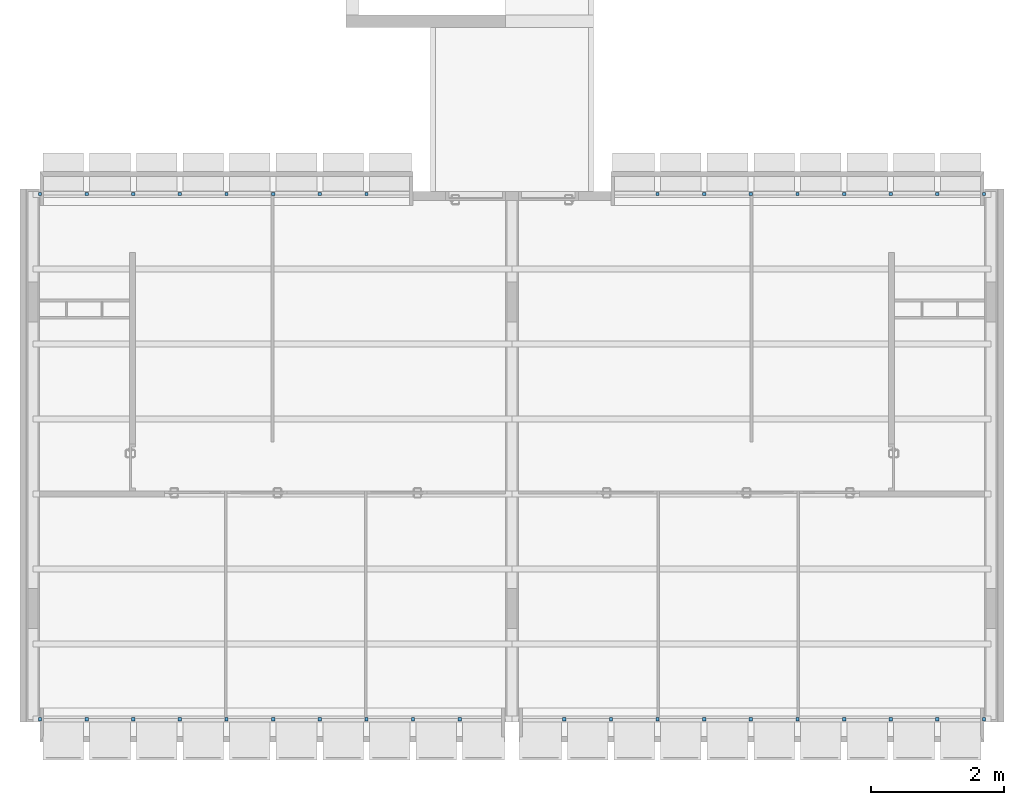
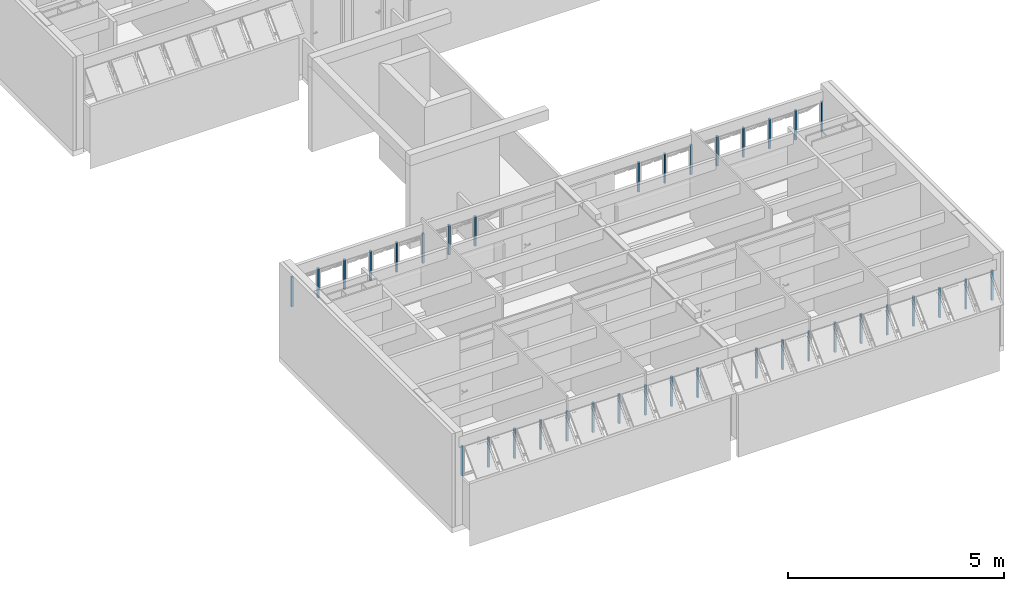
# One storey, part 2 of 40: 36 members, 4 elements without a shape of their own.
"""IFC4 building model written with IfcOpenShell, lengths in millimetres."""

import ifcopenshell
import ifcopenshell.guid

model = None  # the IFC model being written
_history = None  # IfcOwnerHistory: only IFC2X3 demands one
_inside = {}  # id of a spatial element -> (the spatial element, [elements in it])
_under = {}  # id of a project, library or spatial element -> (it, [spatial elements below it])
_declared = {}  # id of a project -> (the project, [libraries it declares])
_typed = {}  # id of a type object -> (the type object, [elements of that type])
_made_of = {}  # id of a material, layer set ... -> (it, [elements and type objects made of it])


def new_model(schema):
    """Start an empty IFC model of exactly this schema.

    Asked for "IFC4X3", IfcOpenShell would pick the latest addendum, in which some entities
    have other attributes; the version numbers below select the first issue.
    IFC2X3 requires an IfcOwnerHistory on every rooted entity: one is made here for all.
    """
    global model, _history
    if schema == "IFC4X3":
        model = ifcopenshell.file(schema_version=(4, 3, 0, 0))
    else:
        model = ifcopenshell.file(schema=schema)
    _inside.clear()
    _under.clear()
    _declared.clear()
    _typed.clear()
    _made_of.clear()
    _history = None
    if model.schema == "IFC2X3":
        org = make("IfcOrganization", Name="unknown")
        user = make(
            "IfcPersonAndOrganization",
            ThePerson=make("IfcPerson", FamilyName="unknown"),
            TheOrganization=org,
        )
        app = make(
            "IfcApplication",
            ApplicationDeveloper=org,
            Version="unknown",
            ApplicationFullName="unknown",
            ApplicationIdentifier="unknown",
        )
        _history = make(
            "IfcOwnerHistory",
            OwningUser=user,
            OwningApplication=app,
            ChangeAction="ADDED",
            CreationDate=0,
        )
    return model


def make(cls, **values):
    """One entity of the class cls with the attributes given. An attribute that is None is left unset."""
    return model.create_entity(
        cls, **{name: value for name, value in values.items() if value is not None}
    )


def entity(cls, *values):
    """Any entity or typed value of the class cls, its attributes in the order of the schema. None: left unset."""
    e = model.create_entity(cls)
    for i, value in enumerate(values):
        if value is not None:
            e[i] = value
    return e


def rooted(cls, **values):
    """An entity with a GlobalId (a new one), such as an element, a storey or a relation."""
    return make(cls, GlobalId=ifcopenshell.guid.new(), OwnerHistory=_history, **values)


def si_unit(unit_type, name, prefix=None):
    """IfcSIUnit, for example si_unit("LENGTHUNIT", "METRE", prefix="MILLI")."""
    return make("IfcSIUnit", UnitType=unit_type, Prefix=prefix, Name=name)


def converted_unit(unit_type, name, factor, base, dimensions=None, offset=None):
    """IfcConversionBasedUnit, such as the inch: factor (a typed value) times the base unit."""
    return make(
        "IfcConversionBasedUnit"
        if offset is None
        else "IfcConversionBasedUnitWithOffset",
        ConversionOffset=offset,
        Dimensions=None
        if dimensions is None
        else entity("IfcDimensionalExponents", *dimensions),
        UnitType=unit_type,
        Name=name,
        ConversionFactor=make(
            "IfcMeasureWithUnit", ValueComponent=factor, UnitComponent=base
        ),
    )


def derived_unit(unit_type, elements):
    """IfcDerivedUnit: a product of units, each with its exponent."""
    return make(
        "IfcDerivedUnit",
        Elements=[
            make("IfcDerivedUnitElement", Unit=unit, Exponent=power)
            for unit, power in elements
        ],
        UnitType=unit_type,
    )


def assignment(units):
    """IfcUnitAssignment: the units of a project."""
    return None if units is None else make("IfcUnitAssignment", Units=units)


def point(xyz):
    """IfcCartesianPoint."""
    return None if xyz is None else make("IfcCartesianPoint", Coordinates=xyz)


def direction(xyz):
    """IfcDirection."""
    return None if xyz is None else make("IfcDirection", DirectionRatios=xyz)


def frame(location, z_axis=None, x_axis=None):
    """IfcAxis2Placement3D, a coordinate frame: its origin and axes. An axis left out is left unset."""
    return make(
        "IfcAxis2Placement3D",
        Location=point(location),
        Axis=direction(z_axis),
        RefDirection=direction(x_axis),
    )


def origin_with_axes():
    """The frame at (0, 0, 0) with the z axis (0, 0, 1) and the x axis (1, 0, 0) written out."""
    return frame((0.0, 0.0, 0.0), z_axis=(0.0, 0.0, 1.0), x_axis=(1.0, 0.0, 0.0))


def place(relative_to, where):
    """IfcLocalPlacement: puts the frame where relative to a parent placement (None: the world)."""
    return make(
        "IfcLocalPlacement", PlacementRelTo=relative_to, RelativePlacement=where
    )


def context(
    kind, dimensions, precision=None, world=None, true_north=None, identifier=None
):
    """IfcGeometricRepresentationContext, for example the 3D "Model" context."""
    return make(
        "IfcGeometricRepresentationContext",
        ContextIdentifier=identifier,
        ContextType=kind,
        CoordinateSpaceDimension=dimensions,
        Precision=precision,
        WorldCoordinateSystem=world,
        TrueNorth=true_north,
    )


def subcontext(parent, identifier, kind, view, scale=None):
    """IfcGeometricRepresentationSubContext, for example "Body" below "Model"."""
    return make(
        "IfcGeometricRepresentationSubContext",
        ContextIdentifier=identifier,
        ContextType=kind,
        ParentContext=parent,
        TargetScale=scale,
        TargetView=view,
    )


def project(units=None, contexts=None):
    """IfcProject with its units and contexts."""
    return rooted(
        "IfcProject",
        Name="project",
        RepresentationContexts=contexts,
        UnitsInContext=assignment(units),
    )


def spatial(cls, under=None, at=None, **own):
    """A site, building, storey or space (cls), placed at a placement, below another one or the project."""
    s = rooted(cls, ObjectPlacement=at, **own)
    if under is not None:
        _under.setdefault(under.id(), (under, []))[1].append(s)
    return s


def point_list(points):
    """IfcCartesianPointList2D or 3D."""
    cls = (
        "IfcCartesianPointList2D" if len(points[0]) == 2 else "IfcCartesianPointList3D"
    )
    return make(cls, CoordList=points)


def line(*indices):
    """IfcLineIndex: a straight run through numbered points of an indexed curve."""
    return model.create_entity("IfcLineIndex", indices)


def indexed_curve(points, segments=None, self_intersect=None):
    """IfcIndexedPolyCurve: lines and arcs through numbered points (the first is 1)."""
    return make(
        "IfcIndexedPolyCurve",
        Points=point_list(points),
        Segments=segments,
        SelfIntersect=self_intersect,
    )


def outline(outer, holes=None, kind="AREA"):
    """IfcArbitraryClosedProfileDef: a profile drawn as a closed curve; with holes, ...WithVoids."""
    if holes is None:
        return make("IfcArbitraryClosedProfileDef", ProfileType=kind, OuterCurve=outer)
    return make(
        "IfcArbitraryProfileDefWithVoids",
        ProfileType=kind,
        OuterCurve=outer,
        InnerCurves=holes,
    )


def extrude(swept, where, along, depth):
    """IfcExtrudedAreaSolid: the profile swept, set in the frame where, extruded along a direction by depth."""
    return make(
        "IfcExtrudedAreaSolid",
        SweptArea=swept,
        Position=where,
        ExtrudedDirection=direction(along),
        Depth=depth,
    )


def shape(context_of_items, identifier, shape_type, items):
    """IfcShapeRepresentation: the items that make up one representation, for example the "Body"."""
    return make(
        "IfcShapeRepresentation",
        ContextOfItems=context_of_items,
        RepresentationIdentifier=identifier,
        RepresentationType=shape_type,
        Items=items,
    )


def material(Name=None, Category=None):
    """IfcMaterial."""
    return make("IfcMaterial", Name=Name, Category=Category)


def made_of(thing, what):
    """Note that an element or type object is made of a material, layer set ...; save() writes the relation."""
    if what is not None:
        _made_of.setdefault(what.id(), (what, []))[1].append(thing)
    return thing


def type_object(cls, material=None, **own):
    """A type object (cls), such as IfcWallType, which elements share."""
    return made_of(rooted(cls, **own), material)


def element(
    cls,
    number,
    at=None,
    inside=None,
    cuts=None,
    type_object=None,
    material=None,
    context=None,
    identifier="Body",
    shape_type=None,
    held_by="IfcProductDefinitionShape",
    body=None,
    shapes=None,
    **own,
):
    """One element of the class cls, such as IfcWall. Its Tag is "e" and its number.

    at: its placement. inside: the storey or other place that contains it. cuts: it is an
    opening in that element (IfcRelVoidsElement). A single representation is given by context,
    identifier, shape_type and body (its items); several are given by shapes. held_by: the class
    of the entity that holds the representations. save() writes the other relations.
    """
    e = rooted(cls, Tag="e%d" % number, ObjectPlacement=at, **own)
    if body is not None:
        shapes = [shape(context, identifier, shape_type, body)]
    if shapes is not None:
        e.Representation = make(held_by, Representations=shapes)
    if inside is not None:
        _inside.setdefault(inside.id(), (inside, []))[1].append(e)
    if cuts is not None:
        rooted(
            "IfcRelVoidsElement", RelatingBuildingElement=cuts, RelatedOpeningElement=e
        )
    if type_object is not None:
        _typed.setdefault(type_object.id(), (type_object, []))[1].append(e)
    return made_of(e, material)


def aggregate(whole, parts):
    """IfcRelAggregates: a whole, such as a stair, and the parts it consists of."""
    return rooted("IfcRelAggregates", RelatingObject=whole, RelatedObjects=parts)


def save(model, path):
    """Write the relations noted so far, then the file.

    IfcRelAggregates (storeys below a building ...), IfcRelContainedInSpatialStructure (elements
    in a storey), IfcRelDefinesByType, IfcRelAssociatesMaterial and IfcRelDeclares: one each for
    every whole, place, type object, material and project.
    """
    for whole, parts in _under.values():
        aggregate(whole, parts)
    for where, things in _inside.values():
        rooted(
            "IfcRelContainedInSpatialStructure",
            RelatedElements=things,
            RelatingStructure=where,
        )
    for kind, things in _typed.values():
        rooted("IfcRelDefinesByType", RelatedObjects=things, RelatingType=kind)
    for what, things in _made_of.values():
        rooted("IfcRelAssociatesMaterial", RelatedObjects=things, RelatingMaterial=what)
    for by, libraries in _declared.values():
        rooted("IfcRelDeclares", RelatingContext=by, RelatedDefinitions=libraries)
    model.write(path)


model = new_model("IFC4")

# Units and contexts
model_context = context("Model", 3, precision=0.01, world=origin_with_axes(), true_north=direction((0.0, 1.0)))
body_context = subcontext(model_context, "Body", "Model", "MODEL_VIEW")
ifc_project = project(units=[si_unit("LENGTHUNIT", "METRE", prefix="MILLI"), si_unit("AREAUNIT", "SQUARE_METRE"), si_unit("VOLUMEUNIT", "CUBIC_METRE"), converted_unit("PLANEANGLEUNIT", "DEGREE", entity("IfcPlaneAngleMeasure", 0.0174532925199), si_unit("PLANEANGLEUNIT", "RADIAN"), dimensions=[0, 0, 0, 0, 0, 0, 0]), converted_unit("TIMEUNIT", "Year", entity("IfcTimeMeasure", 31556926.0), si_unit("TIMEUNIT", "SECOND"), dimensions=[0, 0, 1, 0, 0, 0, 0]), si_unit("MASSUNIT", "GRAM", prefix="KILO"), si_unit("THERMODYNAMICTEMPERATUREUNIT", "DEGREE_CELSIUS"), si_unit("LUMINOUSINTENSITYUNIT", "LUMEN"), si_unit("ENERGYUNIT", "JOULE", prefix="MEGA"), derived_unit("THERMALCONDUCTANCEUNIT", [(si_unit("POWERUNIT", "WATT"), 1), (si_unit("LENGTHUNIT", "METRE"), -1), (si_unit("THERMODYNAMICTEMPERATUREUNIT", "KELVIN"), -1)]), derived_unit("SPECIFICHEATCAPACITYUNIT", [(si_unit("ENERGYUNIT", "JOULE"), 1), (si_unit("MASSUNIT", "GRAM", prefix="KILO"), -1), (si_unit("THERMODYNAMICTEMPERATUREUNIT", "KELVIN"), -1)]), derived_unit("MASSDENSITYUNIT", [(si_unit("MASSUNIT", "GRAM", prefix="KILO"), 1), (si_unit("VOLUMEUNIT", "CUBIC_METRE"), -1)])], contexts=[model_context])

# Site, building, storey
site_placement = place(None, origin_with_axes())
site = spatial("IfcSite", under=ifc_project, at=site_placement, Name="Local", CompositionType="ELEMENT")
building_placement = place(site_placement, origin_with_axes())
building = spatial("IfcBuilding", under=site, at=building_placement, Name="Construção", CompositionType="ELEMENT")
storey_placement = place(building_placement, frame((0.0, 0.0, 5300.0), z_axis=(0.0, 0.0, 1.0), x_axis=(1.0, 0.0, 0.0)))
storey = spatial("IfcBuildingStorey", under=building, at=storey_placement, Name="Terceiro Pavimento", CompositionType="ELEMENT", Elevation=5300.0)

# Window, members
window_type = type_object("IfcWindowType", Name="Tipo de Parede Cortina", PartitioningType="NOTDEFINED", PredefinedType="NOTDEFINED")
window_1_placement = place(storey_placement, frame((2750.0, 8250.0, 1355.00007107), z_axis=(0.0, 0.0, 1.0), x_axis=(1.0, 0.0, 0.0)))
window_1 = element("IfcWindow", 1, at=window_1_placement, inside=storey, type_object=window_type, Name="APTO9-JANELA-000", PredefinedType="NOTDEFINED")
ifc_material = material(Name="Alumínio")
member_type = type_object("IfcMemberType", Name="Montante 50 x 50", PredefinedType="MULLION")
member_1_placement = place(window_1_placement, frame((1050.0, 0.0, 0.0), z_axis=(0.0, 0.0, 1.0), x_axis=(-1.0, 0.0, 0.0)))
member_1 = element("IfcMember", 2, at=member_1_placement, type_object=member_type, material=ifc_material, Name="APTO9-PC-Est-Mnt-430", PredefinedType="MULLION", context=body_context, shape_type="SweptSolid", body=[
    extrude(outline(indexed_curve([(-25.0, -50.0), (25.0, -50.0), (25.0, 0.0), (-25.0, 0.0)], segments=[line(1, 2, 3, 4, 1)])), frame((0.0, 0.0, 0.0), z_axis=(0.0, 0.0, 1.0), x_axis=(-1.0, 0.0, 0.0)), (0.0, 0.0, 1.0), 844.999928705),
])
member_2_placement = place(window_1_placement, frame((1750.0, 0.0, 0.0), z_axis=(0.0, 0.0, 1.0), x_axis=(-1.0, 0.0, 0.0)))
member_2 = element("IfcMember", 3, at=member_2_placement, type_object=member_type, material=ifc_material, Name="APTO9-PC-Est-Mnt-485", PredefinedType="MULLION", context=body_context, shape_type="SweptSolid", body=[
    extrude(outline(indexed_curve([(-25.0, -50.0), (25.0, -50.0), (25.0, 0.0), (-25.0, 0.0)], segments=[line(1, 2, 3, 4, 1)])), frame((0.0, 0.0, 0.0), z_axis=(0.0, 0.0, 1.0), x_axis=(-1.0, 0.0, 0.0)), (0.0, 0.0, 1.0), 844.999928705),
])
member_3_placement = place(window_1_placement, frame((2450.0, 0.0, 0.0), z_axis=(0.0, 0.0, 1.0), x_axis=(-1.0, 0.0, 0.0)))
member_3 = element("IfcMember", 4, at=member_3_placement, type_object=member_type, material=ifc_material, Name="APTO9-PC-Est-Mnt-486", PredefinedType="MULLION", context=body_context, shape_type="SweptSolid", body=[
    extrude(outline(indexed_curve([(-25.0, -50.0), (25.0, -50.0), (25.0, 0.0), (-25.0, 0.0)], segments=[line(1, 2, 3, 4, 1)])), frame((0.0, 0.0, 0.0), z_axis=(0.0, 0.0, 1.0), x_axis=(-1.0, 0.0, 0.0)), (0.0, 0.0, 1.0), 844.999928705),
])
member_4_placement = place(window_1_placement, frame((-350.0, 0.0, 0.0), z_axis=(0.0, 0.0, 1.0), x_axis=(-1.0, 0.0, 0.0)))
member_4 = element("IfcMember", 5, at=member_4_placement, type_object=member_type, material=ifc_material, Name="APTO9-PC-Est-Mnt-428", PredefinedType="MULLION", context=body_context, shape_type="SweptSolid", body=[
    extrude(outline(indexed_curve([(-25.0, -50.0), (25.0, -50.0), (25.0, 0.0), (-25.0, 0.0)], segments=[line(1, 2, 3, 4, 1)])), frame((0.0, 0.0, 0.0), z_axis=(0.0, 0.0, 1.0), x_axis=(-1.0, 0.0, 0.0)), (0.0, 0.0, 1.0), 844.999928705),
])
member_5_placement = place(window_1_placement, frame((-2450.0, 0.0, 0.0), z_axis=(0.0, 0.0, 1.0), x_axis=(-1.0, 0.0, 0.0)))
member_5 = element("IfcMember", 6, at=member_5_placement, type_object=member_type, material=ifc_material, Name="APTO9-PC-Est-Mnt-560", PredefinedType="MULLION", context=body_context, shape_type="SweptSolid", body=[
    extrude(outline(indexed_curve([(-25.0, -50.0), (25.0, -50.0), (25.0, 0.0), (-25.0, 0.0)], segments=[line(1, 2, 3, 4, 1)])), frame((0.0, 0.0, 0.0), z_axis=(0.0, 0.0, 1.0), x_axis=(-1.0, 0.0, 0.0)), (0.0, 0.0, 1.0), 844.999928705),
])
member_6_placement = place(window_1_placement, frame((350.0, 0.0, 0.0), z_axis=(0.0, 0.0, 1.0), x_axis=(-1.0, 0.0, 0.0)))
member_6 = element("IfcMember", 7, at=member_6_placement, type_object=member_type, material=ifc_material, Name="APTO9-PC-Est-Mnt-429", PredefinedType="MULLION", context=body_context, shape_type="SweptSolid", body=[
    extrude(outline(indexed_curve([(-25.0, -50.0), (25.0, -50.0), (25.0, 0.0), (-25.0, 0.0)], segments=[line(1, 2, 3, 4, 1)])), frame((0.0, 0.0, 0.0), z_axis=(0.0, 0.0, 1.0), x_axis=(-1.0, 0.0, 0.0)), (0.0, 0.0, 1.0), 844.999928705),
])
member_7_placement = place(window_1_placement, frame((-1050.0, 0.0, 0.0), z_axis=(0.0, 0.0, 1.0), x_axis=(-1.0, 0.0, 0.0)))
member_7 = element("IfcMember", 8, at=member_7_placement, type_object=member_type, material=ifc_material, Name="APTO9-PC-Est-Mnt-427", PredefinedType="MULLION", context=body_context, shape_type="SweptSolid", body=[
    extrude(outline(indexed_curve([(-25.0, -50.0), (25.0, -50.0), (25.0, 0.0), (-25.0, 0.0)], segments=[line(1, 2, 3, 4, 1)])), frame((0.0, 0.0, 0.0), z_axis=(0.0, 0.0, 1.0), x_axis=(-1.0, 0.0, 0.0)), (0.0, 0.0, 1.0), 844.999928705),
])
member_8_placement = place(window_1_placement, frame((-1750.0, 0.0, 0.0), z_axis=(0.0, 0.0, 1.0), x_axis=(-1.0, 0.0, 0.0)))
member_8 = element("IfcMember", 9, at=member_8_placement, type_object=member_type, material=ifc_material, Name="APTO9-PC-Est-Mnt-426", PredefinedType="MULLION", context=body_context, shape_type="SweptSolid", body=[
    extrude(outline(indexed_curve([(-25.0, -50.0), (25.0, -50.0), (25.0, 0.0), (-25.0, 0.0)], segments=[line(1, 2, 3, 4, 1)])), frame((0.0, 0.0, 0.0), z_axis=(0.0, 0.0, 1.0), x_axis=(-1.0, 0.0, 0.0)), (0.0, 0.0, 1.0), 844.999928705),
])
aggregate(window_1, [member_1, member_2, member_3, member_4, member_5, member_6, member_7, member_8])

window_2_placement = place(storey_placement, frame((6250.0, 315.020977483, 1355.02054151), z_axis=(0.0, 0.0, 1.0), x_axis=(1.0, 0.0, 0.0)))
window_2 = element("IfcWindow", 10, at=window_2_placement, inside=storey, type_object=window_type, Name="APTO9-JANELA-001", PredefinedType="NOTDEFINED")
member_9_placement = place(window_2_placement, frame((-2450.0, 0.0, 0.0), z_axis=(0.0, 0.0, 1.0), x_axis=(-1.0, 0.0, 0.0)))
member_9 = element("IfcMember", 11, at=member_9_placement, type_object=member_type, material=ifc_material, Name="APTO9-PC-Est-Mnt-430", PredefinedType="MULLION", context=body_context, shape_type="SweptSolid", body=[
    extrude(outline(indexed_curve([(-25.0, 50.0), (-25.0, 0.0), (25.0, 0.0), (25.0, 50.0)], segments=[line(1, 2, 3, 4, 1)])), frame((0.0, 0.0, 0.0), z_axis=(0.0, 0.0, 1.0), x_axis=(-1.0, 0.0, 0.0)), (0.0, 0.0, 1.0), 844.999891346),
])
member_10_placement = place(window_2_placement, frame((-1750.0, 0.0, 0.0), z_axis=(0.0, 0.0, 1.0), x_axis=(-1.0, 0.0, 0.0)))
member_10 = element("IfcMember", 12, at=member_10_placement, type_object=member_type, material=ifc_material, Name="APTO9-PC-Est-Mnt-485", PredefinedType="MULLION", context=body_context, shape_type="SweptSolid", body=[
    extrude(outline(indexed_curve([(-25.0, 50.0), (-25.0, 0.0), (25.0, 0.0), (25.0, 50.0)], segments=[line(1, 2, 3, 4, 1)])), frame((0.0, 0.0, 0.0), z_axis=(0.0, 0.0, 1.0), x_axis=(-1.0, 0.0, 0.0)), (0.0, 0.0, 1.0), 844.999891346),
])
member_11_placement = place(window_2_placement, frame((-1050.0, 0.0, 0.0), z_axis=(0.0, 0.0, 1.0), x_axis=(-1.0, 0.0, 0.0)))
member_11 = element("IfcMember", 13, at=member_11_placement, type_object=member_type, material=ifc_material, Name="APTO9-PC-Est-Mnt-486", PredefinedType="MULLION", context=body_context, shape_type="SweptSolid", body=[
    extrude(outline(indexed_curve([(-25.0, 50.0), (-25.0, 0.0), (25.0, 0.0), (25.0, 50.0)], segments=[line(1, 2, 3, 4, 1)])), frame((0.0, 0.0, 0.0), z_axis=(0.0, 0.0, 1.0), x_axis=(-1.0, 0.0, 0.0)), (0.0, 0.0, 1.0), 844.999891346),
])
member_12_placement = place(window_2_placement, frame((-3850.0, 0.0, 0.0), z_axis=(0.0, 0.0, 1.0), x_axis=(-1.0, 0.0, 0.0)))
member_12 = element("IfcMember", 14, at=member_12_placement, type_object=member_type, material=ifc_material, Name="APTO9-PC-Est-Mnt-428", PredefinedType="MULLION", context=body_context, shape_type="SweptSolid", body=[
    extrude(outline(indexed_curve([(-25.0, 50.0), (-25.0, 0.0), (25.0, 0.0), (25.0, 50.0)], segments=[line(1, 2, 3, 4, 1)])), frame((0.0, 0.0, 0.0), z_axis=(0.0, 0.0, 1.0), x_axis=(-1.0, 0.0, 0.0)), (0.0, 0.0, 1.0), 844.999891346),
])
member_13_placement = place(window_2_placement, frame((-350.0, 0.0, 0.0), z_axis=(0.0, 0.0, 1.0), x_axis=(-1.0, 0.0, 0.0)))
member_13 = element("IfcMember", 15, at=member_13_placement, type_object=member_type, material=ifc_material, Name="APTO9-PC-Est-Mnt-487", PredefinedType="MULLION", context=body_context, shape_type="SweptSolid", body=[
    extrude(outline(indexed_curve([(-25.0, 50.0), (-25.0, 0.0), (25.0, 0.0), (25.0, 50.0)], segments=[line(1, 2, 3, 4, 1)])), frame((0.0, 0.0, 0.0), z_axis=(0.0, 0.0, 1.0), x_axis=(-1.0, 0.0, 0.0)), (0.0, 0.0, 1.0), 844.999891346),
])
member_14_placement = place(window_2_placement, frame((350.0, 0.0, 0.0), z_axis=(0.0, 0.0, 1.0), x_axis=(-1.0, 0.0, 0.0)))
member_14 = element("IfcMember", 16, at=member_14_placement, type_object=member_type, material=ifc_material, Name="APTO9-PC-Est-Mnt-488", PredefinedType="MULLION", context=body_context, shape_type="SweptSolid", body=[
    extrude(outline(indexed_curve([(-25.0, 50.0), (-25.0, 0.0), (25.0, 0.0), (25.0, 50.0)], segments=[line(1, 2, 3, 4, 1)])), frame((0.0, 0.0, 0.0), z_axis=(0.0, 0.0, 1.0), x_axis=(-1.0, 0.0, 0.0)), (0.0, 0.0, 1.0), 844.999891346),
])
member_15_placement = place(window_2_placement, frame((-5950.0, 0.0, 0.0), z_axis=(0.0, 0.0, 1.0), x_axis=(-1.0, 0.0, 0.0)))
member_15 = element("IfcMember", 17, at=member_15_placement, type_object=member_type, material=ifc_material, Name="APTO9-PC-Est-Mnt-522", PredefinedType="MULLION", context=body_context, shape_type="SweptSolid", body=[
    extrude(outline(indexed_curve([(-25.0, 50.0), (-25.0, 0.0), (25.0, 0.0), (25.0, 50.0)], segments=[line(1, 2, 3, 4, 1)])), frame((0.0, 0.0, 0.0), z_axis=(0.0, 0.0, 1.0), x_axis=(-1.0, 0.0, 0.0)), (0.0, 0.0, 1.0), 844.999891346),
])
member_16_placement = place(window_2_placement, frame((-3150.0, 0.0, 0.0), z_axis=(0.0, 0.0, 1.0), x_axis=(-1.0, 0.0, 0.0)))
member_16 = element("IfcMember", 18, at=member_16_placement, type_object=member_type, material=ifc_material, Name="APTO9-PC-Est-Mnt-429", PredefinedType="MULLION", context=body_context, shape_type="SweptSolid", body=[
    extrude(outline(indexed_curve([(-25.0, 50.0), (-25.0, 0.0), (25.0, 0.0), (25.0, 50.0)], segments=[line(1, 2, 3, 4, 1)])), frame((0.0, 0.0, 0.0), z_axis=(0.0, 0.0, 1.0), x_axis=(-1.0, 0.0, 0.0)), (0.0, 0.0, 1.0), 844.999891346),
])
member_17_placement = place(window_2_placement, frame((-4550.0, 0.0, 0.0), z_axis=(0.0, 0.0, 1.0), x_axis=(-1.0, 0.0, 0.0)))
member_17 = element("IfcMember", 19, at=member_17_placement, type_object=member_type, material=ifc_material, Name="APTO9-PC-Est-Mnt-427", PredefinedType="MULLION", context=body_context, shape_type="SweptSolid", body=[
    extrude(outline(indexed_curve([(-25.0, 50.0), (-25.0, 0.0), (25.0, 0.0), (25.0, 50.0)], segments=[line(1, 2, 3, 4, 1)])), frame((0.0, 0.0, 0.0), z_axis=(0.0, 0.0, 1.0), x_axis=(-1.0, 0.0, 0.0)), (0.0, 0.0, 1.0), 844.999891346),
])
member_18_placement = place(window_2_placement, frame((-5250.0, 0.0, 0.0), z_axis=(0.0, 0.0, 1.0), x_axis=(-1.0, 0.0, 0.0)))
member_18 = element("IfcMember", 20, at=member_18_placement, type_object=member_type, material=ifc_material, Name="APTO9-PC-Est-Mnt-426", PredefinedType="MULLION", context=body_context, shape_type="SweptSolid", body=[
    extrude(outline(indexed_curve([(-25.0, 50.0), (-25.0, 0.0), (25.0, 0.0), (25.0, 50.0)], segments=[line(1, 2, 3, 4, 1)])), frame((0.0, 0.0, 0.0), z_axis=(0.0, 0.0, 1.0), x_axis=(-1.0, 0.0, 0.0)), (0.0, 0.0, 1.0), 844.999891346),
])
aggregate(window_2, [member_9, member_10, member_11, member_12, member_13, member_14, member_15, member_16, member_17, member_18])

window_3_placement = place(storey_placement, frame((12020.0, 8250.0, 1355.00007107), z_axis=(0.0, 0.0, 1.0), x_axis=(1.0, 0.0, 0.0)))
window_3 = element("IfcWindow", 21, at=window_3_placement, inside=storey, type_object=window_type, Name="APTO10-JANELA-000", PredefinedType="NOTDEFINED")
member_19_placement = place(window_3_placement, frame((-1050.0, 0.0, 0.0), z_axis=(0.0, 0.0, 1.0), x_axis=(1.0, 0.0, 0.0)))
member_19 = element("IfcMember", 22, at=member_19_placement, type_object=member_type, material=ifc_material, Name="APTO10-PC-Est-Mnt-430", PredefinedType="MULLION", context=body_context, shape_type="SweptSolid", body=[
    extrude(outline(indexed_curve([(25.0, -50.0), (25.0, 0.0), (-25.0, 0.0), (-25.0, -50.0)], segments=[line(1, 2, 3, 4, 1)])), origin_with_axes(), (0.0, 0.0, 1.0), 844.999891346),
])
member_20_placement = place(window_3_placement, frame((-1750.0, 0.0, 0.0), z_axis=(0.0, 0.0, 1.0), x_axis=(1.0, 0.0, 0.0)))
member_20 = element("IfcMember", 23, at=member_20_placement, type_object=member_type, material=ifc_material, Name="APTO10-PC-Est-Mnt-485", PredefinedType="MULLION", context=body_context, shape_type="SweptSolid", body=[
    extrude(outline(indexed_curve([(25.0, -50.0), (25.0, 0.0), (-25.0, 0.0), (-25.0, -50.0)], segments=[line(1, 2, 3, 4, 1)])), origin_with_axes(), (0.0, 0.0, 1.0), 844.999891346),
])
member_21_placement = place(window_3_placement, frame((-2450.0, 0.0, 0.0), z_axis=(0.0, 0.0, 1.0), x_axis=(1.0, 0.0, 0.0)))
member_21 = element("IfcMember", 24, at=member_21_placement, type_object=member_type, material=ifc_material, Name="APTO10-PC-Est-Mnt-486", PredefinedType="MULLION", context=body_context, shape_type="SweptSolid", body=[
    extrude(outline(indexed_curve([(25.0, -50.0), (25.0, 0.0), (-25.0, 0.0), (-25.0, -50.0)], segments=[line(1, 2, 3, 4, 1)])), origin_with_axes(), (0.0, 0.0, 1.0), 844.999891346),
])
member_22_placement = place(window_3_placement, frame((350.0, 0.0, 0.0), z_axis=(0.0, 0.0, 1.0), x_axis=(1.0, 0.0, 0.0)))
member_22 = element("IfcMember", 25, at=member_22_placement, type_object=member_type, material=ifc_material, Name="APTO10-PC-Est-Mnt-428", PredefinedType="MULLION", context=body_context, shape_type="SweptSolid", body=[
    extrude(outline(indexed_curve([(25.0, -50.0), (25.0, 0.0), (-25.0, 0.0), (-25.0, -50.0)], segments=[line(1, 2, 3, 4, 1)])), origin_with_axes(), (0.0, 0.0, 1.0), 844.999891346),
])
member_23_placement = place(window_3_placement, frame((2450.0, 0.0, 0.0), z_axis=(0.0, 0.0, 1.0), x_axis=(1.0, 0.0, 0.0)))
member_23 = element("IfcMember", 26, at=member_23_placement, type_object=member_type, material=ifc_material, Name="APTO10-PC-Est-Mnt-560", PredefinedType="MULLION", context=body_context, shape_type="SweptSolid", body=[
    extrude(outline(indexed_curve([(25.0, -50.0), (25.0, 0.0), (-25.0, 0.0), (-25.0, -50.0)], segments=[line(1, 2, 3, 4, 1)])), origin_with_axes(), (0.0, 0.0, 1.0), 844.999891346),
])
member_24_placement = place(window_3_placement, frame((-350.0, 0.0, 0.0), z_axis=(0.0, 0.0, 1.0), x_axis=(1.0, 0.0, 0.0)))
member_24 = element("IfcMember", 27, at=member_24_placement, type_object=member_type, material=ifc_material, Name="APTO10-PC-Est-Mnt-429", PredefinedType="MULLION", context=body_context, shape_type="SweptSolid", body=[
    extrude(outline(indexed_curve([(25.0, -50.0), (25.0, 0.0), (-25.0, 0.0), (-25.0, -50.0)], segments=[line(1, 2, 3, 4, 1)])), origin_with_axes(), (0.0, 0.0, 1.0), 844.999891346),
])
member_25_placement = place(window_3_placement, frame((1050.0, 0.0, 0.0), z_axis=(0.0, 0.0, 1.0), x_axis=(1.0, 0.0, 0.0)))
member_25 = element("IfcMember", 28, at=member_25_placement, type_object=member_type, material=ifc_material, Name="APTO10-PC-Est-Mnt-427", PredefinedType="MULLION", context=body_context, shape_type="SweptSolid", body=[
    extrude(outline(indexed_curve([(25.0, -50.0), (25.0, 0.0), (-25.0, 0.0), (-25.0, -50.0)], segments=[line(1, 2, 3, 4, 1)])), origin_with_axes(), (0.0, 0.0, 1.0), 844.999891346),
])
member_26_placement = place(window_3_placement, frame((1750.0, 0.0, 0.0), z_axis=(0.0, 0.0, 1.0), x_axis=(1.0, 0.0, 0.0)))
member_26 = element("IfcMember", 29, at=member_26_placement, type_object=member_type, material=ifc_material, Name="APTO10-PC-Est-Mnt-426", PredefinedType="MULLION", context=body_context, shape_type="SweptSolid", body=[
    extrude(outline(indexed_curve([(25.0, -50.0), (25.0, 0.0), (-25.0, 0.0), (-25.0, -50.0)], segments=[line(1, 2, 3, 4, 1)])), origin_with_axes(), (0.0, 0.0, 1.0), 844.999891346),
])
aggregate(window_3, [member_19, member_20, member_21, member_22, member_23, member_24, member_25, member_26])

window_4_placement = place(storey_placement, frame((8520.0, 315.020977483, 1355.02054151), z_axis=(0.0, 0.0, 1.0), x_axis=(1.0, 0.0, 0.0)))
window_4 = element("IfcWindow", 30, at=window_4_placement, inside=storey, type_object=window_type, Name="APTO10-JANELA-001", PredefinedType="NOTDEFINED")
member_27_placement = place(window_4_placement, frame((2450.0, 0.0, 0.0), z_axis=(0.0, 0.0, 1.0), x_axis=(1.0, 0.0, 0.0)))
member_27 = element("IfcMember", 31, at=member_27_placement, type_object=member_type, material=ifc_material, Name="APTO10-PC-Est-Mnt-430", PredefinedType="MULLION", context=body_context, shape_type="SweptSolid", body=[
    extrude(outline(indexed_curve([(25.0, 50.0), (-25.0, 50.0), (-25.0, 0.0), (25.0, 0.0)], segments=[line(1, 2, 3, 4, 1)])), origin_with_axes(), (0.0, 0.0, 1.0), 844.999928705),
])
member_28_placement = place(window_4_placement, frame((1750.0, 0.0, 0.0), z_axis=(0.0, 0.0, 1.0), x_axis=(1.0, 0.0, 0.0)))
member_28 = element("IfcMember", 32, at=member_28_placement, type_object=member_type, material=ifc_material, Name="APTO10-PC-Est-Mnt-485", PredefinedType="MULLION", context=body_context, shape_type="SweptSolid", body=[
    extrude(outline(indexed_curve([(25.0, 50.0), (-25.0, 50.0), (-25.0, 0.0), (25.0, 0.0)], segments=[line(1, 2, 3, 4, 1)])), origin_with_axes(), (0.0, 0.0, 1.0), 844.999928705),
])
member_29_placement = place(window_4_placement, frame((1050.0, 0.0, 0.0), z_axis=(0.0, 0.0, 1.0), x_axis=(1.0, 0.0, 0.0)))
member_29 = element("IfcMember", 33, at=member_29_placement, type_object=member_type, material=ifc_material, Name="APTO10-PC-Est-Mnt-486", PredefinedType="MULLION", context=body_context, shape_type="SweptSolid", body=[
    extrude(outline(indexed_curve([(25.0, 50.0), (-25.0, 50.0), (-25.0, 0.0), (25.0, 0.0)], segments=[line(1, 2, 3, 4, 1)])), origin_with_axes(), (0.0, 0.0, 1.0), 844.999928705),
])
member_30_placement = place(window_4_placement, frame((3850.0, 0.0, 0.0), z_axis=(0.0, 0.0, 1.0), x_axis=(1.0, 0.0, 0.0)))
member_30 = element("IfcMember", 34, at=member_30_placement, type_object=member_type, material=ifc_material, Name="APTO10-PC-Est-Mnt-428", PredefinedType="MULLION", context=body_context, shape_type="SweptSolid", body=[
    extrude(outline(indexed_curve([(25.0, 50.0), (-25.0, 50.0), (-25.0, 0.0), (25.0, 0.0)], segments=[line(1, 2, 3, 4, 1)])), origin_with_axes(), (0.0, 0.0, 1.0), 844.999928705),
])
member_31_placement = place(window_4_placement, frame((350.0, 0.0, 0.0), z_axis=(0.0, 0.0, 1.0), x_axis=(1.0, 0.0, 0.0)))
member_31 = element("IfcMember", 35, at=member_31_placement, type_object=member_type, material=ifc_material, Name="APTO10-PC-Est-Mnt-487", PredefinedType="MULLION", context=body_context, shape_type="SweptSolid", body=[
    extrude(outline(indexed_curve([(25.0, 50.0), (-25.0, 50.0), (-25.0, 0.0), (25.0, 0.0)], segments=[line(1, 2, 3, 4, 1)])), origin_with_axes(), (0.0, 0.0, 1.0), 844.999928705),
])
member_32_placement = place(window_4_placement, frame((-350.0, 0.0, 0.0), z_axis=(0.0, 0.0, 1.0), x_axis=(1.0, 0.0, 0.0)))
member_32 = element("IfcMember", 36, at=member_32_placement, type_object=member_type, material=ifc_material, Name="APTO10-PC-Est-Mnt-488", PredefinedType="MULLION", context=body_context, shape_type="SweptSolid", body=[
    extrude(outline(indexed_curve([(25.0, 50.0), (-25.0, 50.0), (-25.0, 0.0), (25.0, 0.0)], segments=[line(1, 2, 3, 4, 1)])), origin_with_axes(), (0.0, 0.0, 1.0), 844.999928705),
])
member_33_placement = place(window_4_placement, frame((5950.0, 0.0, 0.0), z_axis=(0.0, 0.0, 1.0), x_axis=(1.0, 0.0, 0.0)))
member_33 = element("IfcMember", 37, at=member_33_placement, type_object=member_type, material=ifc_material, Name="APTO10-PC-Est-Mnt-522", PredefinedType="MULLION", context=body_context, shape_type="SweptSolid", body=[
    extrude(outline(indexed_curve([(25.0, 50.0), (-25.0, 50.0), (-25.0, 0.0), (25.0, 0.0)], segments=[line(1, 2, 3, 4, 1)])), origin_with_axes(), (0.0, 0.0, 1.0), 844.999928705),
])
member_34_placement = place(window_4_placement, frame((3150.0, 0.0, 0.0), z_axis=(0.0, 0.0, 1.0), x_axis=(1.0, 0.0, 0.0)))
member_34 = element("IfcMember", 38, at=member_34_placement, type_object=member_type, material=ifc_material, Name="APTO10-PC-Est-Mnt-429", PredefinedType="MULLION", context=body_context, shape_type="SweptSolid", body=[
    extrude(outline(indexed_curve([(25.0, 50.0), (-25.0, 50.0), (-25.0, 0.0), (25.0, 0.0)], segments=[line(1, 2, 3, 4, 1)])), origin_with_axes(), (0.0, 0.0, 1.0), 844.999928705),
])
member_35_placement = place(window_4_placement, frame((4550.0, 0.0, 0.0), z_axis=(0.0, 0.0, 1.0), x_axis=(1.0, 0.0, 0.0)))
member_35 = element("IfcMember", 39, at=member_35_placement, type_object=member_type, material=ifc_material, Name="APTO10-PC-Est-Mnt-427", PredefinedType="MULLION", context=body_context, shape_type="SweptSolid", body=[
    extrude(outline(indexed_curve([(25.0, 50.0), (-25.0, 50.0), (-25.0, 0.0), (25.0, 0.0)], segments=[line(1, 2, 3, 4, 1)])), origin_with_axes(), (0.0, 0.0, 1.0), 844.999928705),
])
member_36_placement = place(window_4_placement, frame((5250.0, 0.0, 0.0), z_axis=(0.0, 0.0, 1.0), x_axis=(1.0, 0.0, 0.0)))
member_36 = element("IfcMember", 40, at=member_36_placement, type_object=member_type, material=ifc_material, Name="APTO10-PC-Est-Mnt-426", PredefinedType="MULLION", context=body_context, shape_type="SweptSolid", body=[
    extrude(outline(indexed_curve([(25.0, 50.0), (-25.0, 50.0), (-25.0, 0.0), (25.0, 0.0)], segments=[line(1, 2, 3, 4, 1)])), origin_with_axes(), (0.0, 0.0, 1.0), 844.999928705),
])
aggregate(window_4, [member_27, member_28, member_29, member_30, member_31, member_32, member_33, member_34, member_35, member_36])

save(model, "model.ifc")
